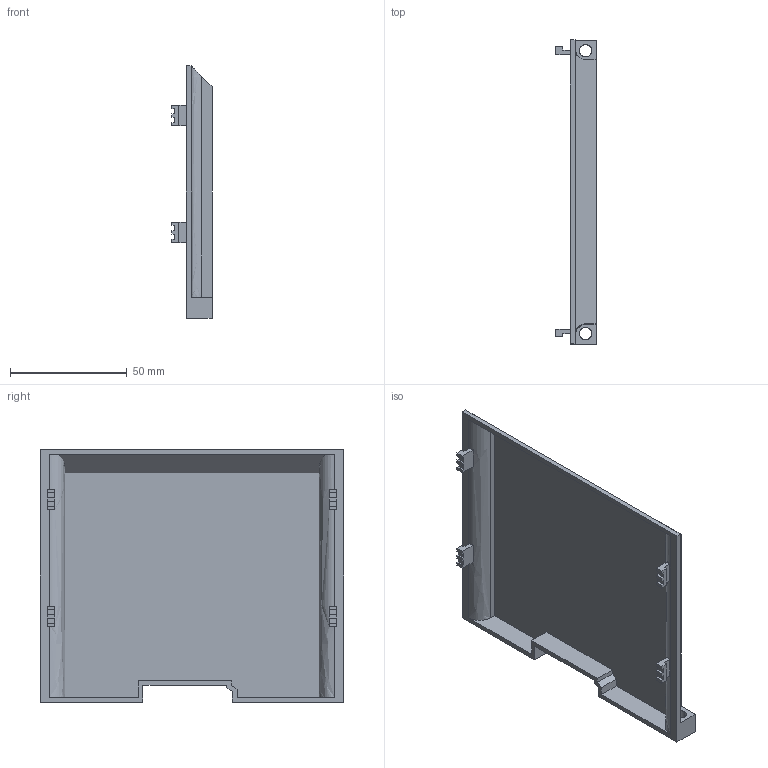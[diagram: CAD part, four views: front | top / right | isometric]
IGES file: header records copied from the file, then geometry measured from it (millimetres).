
Start section: SolidWorks IGES file using analytic representation for surfaces
Global section: file name: D:\YASKAWA\jepmc_op3001_e.IGS; native system: SolidWorks 2006 by SolidWorks Corporation; preprocessor: SolidWorks 2006 by SolidWorks Corporation; author: yamanouchi; date: 130128.102215; units: millimetre
Bounding box: 17.2 x 130 x 108 mm (x, y, z)
Surface area: 35613.4 mm2 (no closed solid volume)
Topology: 0 solids, 0 shells, 99 faces, 764 edges, 764 vertices
Faces by surface type: bspline 91, revolution 8
